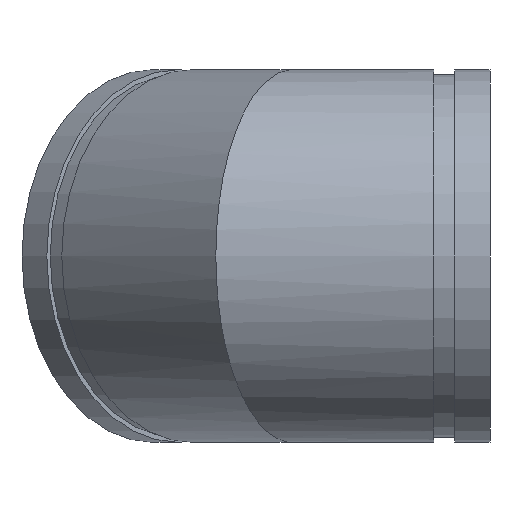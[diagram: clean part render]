
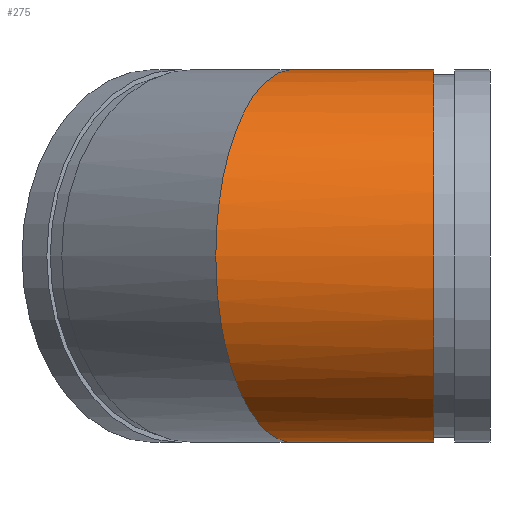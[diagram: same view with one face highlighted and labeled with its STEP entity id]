
A CAD part, left-side view. The second image highlights one B-rep face of the part: STEP entity #275.
In plain terms, the highlighted cylindrical face has radius 84.138 mm (diameter 168.275 mm), a full revolution.
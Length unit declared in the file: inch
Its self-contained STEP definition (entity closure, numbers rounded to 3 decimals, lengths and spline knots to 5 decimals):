
#48=ELLIPSE('',#329,3.58542,3.3125);
#49=ELLIPSE('',#330,3.58542,3.3125);
#50=ELLIPSE('',#331,3.58542,3.3125);
#73=FACE_OUTER_BOUND('',#91,.T.);
#91=EDGE_LOOP('',(#225,#226,#227,#228,#229,#230));
#103=LINE('',#513,#111);
#111=VECTOR('',#416,3.3125);
#117=CIRCLE('',#305,3.3125);
#133=VERTEX_POINT('',#468);
#148=VERTEX_POINT('',#512);
#149=VERTEX_POINT('',#514);
#150=VERTEX_POINT('',#516);
#156=EDGE_CURVE('',#133,#133,#117,.T.);
#176=EDGE_CURVE('',#133,#148,#103,.T.);
#177=EDGE_CURVE('',#148,#149,#48,.T.);
#178=EDGE_CURVE('',#150,#149,#49,.T.);
#179=EDGE_CURVE('',#150,#148,#50,.T.);
#225=ORIENTED_EDGE('',*,*,#156,.T.);
#226=ORIENTED_EDGE('',*,*,#176,.T.);
#227=ORIENTED_EDGE('',*,*,#177,.T.);
#228=ORIENTED_EDGE('',*,*,#178,.F.);
#229=ORIENTED_EDGE('',*,*,#179,.T.);
#230=ORIENTED_EDGE('',*,*,#176,.F.);
#247=CYLINDRICAL_SURFACE('',#328,3.3125);
#275=ADVANCED_FACE('',(#73),#247,.T.);
#305=AXIS2_PLACEMENT_3D('',#469,#363,#364);
#328=AXIS2_PLACEMENT_3D('',#511,#414,#415);
#329=AXIS2_PLACEMENT_3D('',#515,#417,#418);
#330=AXIS2_PLACEMENT_3D('',#517,#419,#420);
#331=AXIS2_PLACEMENT_3D('',#518,#421,#422);
#363=DIRECTION('center_axis',(0.,1.,0.));
#364=DIRECTION('ref_axis',(1.,0.,0.));
#414=DIRECTION('center_axis',(0.,-1.,0.));
#415=DIRECTION('ref_axis',(1.,0.,0.));
#416=DIRECTION('',(0.,1.,0.));
#417=DIRECTION('center_axis',(-0.383,-0.924,0.));
#418=DIRECTION('ref_axis',(0.924,-0.383,0.));
#419=DIRECTION('center_axis',(0.383,0.924,0.));
#420=DIRECTION('ref_axis',(0.924,-0.383,0.));
#421=DIRECTION('center_axis',(-0.383,-0.924,0.));
#422=DIRECTION('ref_axis',(0.924,-0.383,0.));
#468=CARTESIAN_POINT('',(-3.3125,-2.5,0.));
#469=CARTESIAN_POINT('Origin',(0.,-2.5,0.));
#511=CARTESIAN_POINT('Origin',(0.,0.,0.));
#512=CARTESIAN_POINT('',(-3.3125,1.37208,0.));
#513=CARTESIAN_POINT('',(-3.3125,0.,0.));
#514=CARTESIAN_POINT('',(0.,0.,-3.3125));
#515=CARTESIAN_POINT('Origin',(0.,0.,
0.));
#516=CARTESIAN_POINT('',(0.,0.,3.3125));
#517=CARTESIAN_POINT('Origin',(0.,0.,0.));
#518=CARTESIAN_POINT('Origin',(0.,0.,
0.));
